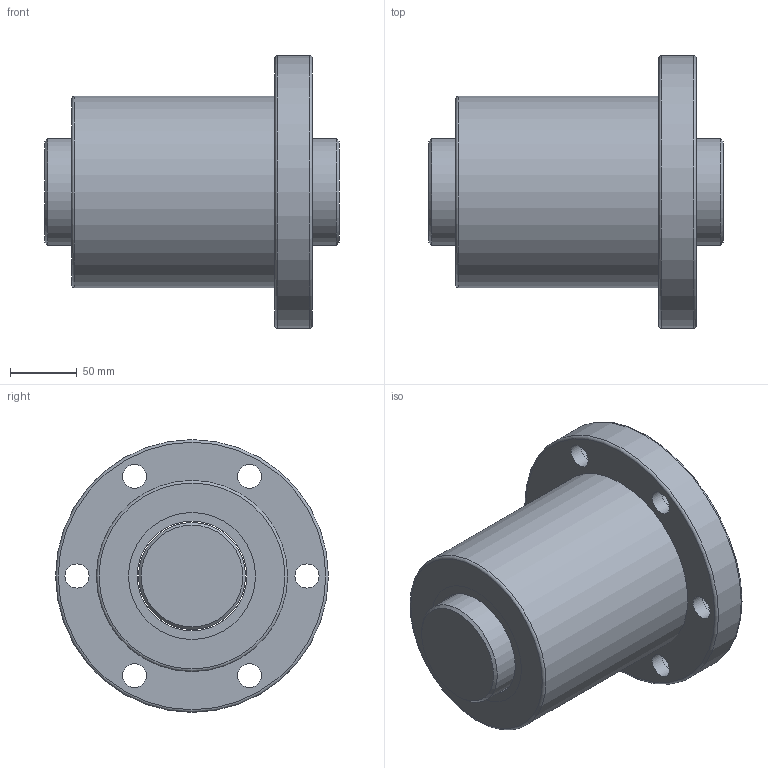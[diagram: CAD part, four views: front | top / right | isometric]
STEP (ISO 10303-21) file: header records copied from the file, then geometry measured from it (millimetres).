
FILE_DESCRIPTION(/* description */ (''),/* implementation_level */ '2;1');
FILE_NAME(/* name */ 'SFV8020',/* time_stamp */ '2007-10-26T09:01:07+08:00',/* author */ (''),/* organization */ (''),/* preprocessor_version */ 'ST-DEVELOPER v9',/* originating_system */ 'EDS PLM SOLUTIONS - UNIGRAPHICS NX 1.0',/* authorisation */ '');
FILE_SCHEMA (('CONFIG_CONTROL_DESIGN'));
Length unit declared in the file: millimetre
Products named in the file (1): FANNDA04002p
Bounding box: 220 x 204 x 204 mm (x, y, z)
Volume: 3436577.7 mm3; surface area: 278990.9 mm2
Topology: 4 solids, 4 shells, 44 faces, 82 edges, 55 vertices
Faces by surface type: cylinder 22, plane 17, torus 3, cone 2
Full cylindrical faces by diameter (mm): 18 x6, 26 x6, 80 x1, 82 x3, 95 x4, 143 x1, 204 x1
Entity records: 1050 total; most frequent: DIRECTION 188, CARTESIAN_POINT 143, EDGE_LOOP 98, ORIENTED_EDGE 98, AXIS2_PLACEMENT_3D 94, FACE_BOUND 79, VERTEX_POINT 49, EDGE_CURVE 49
